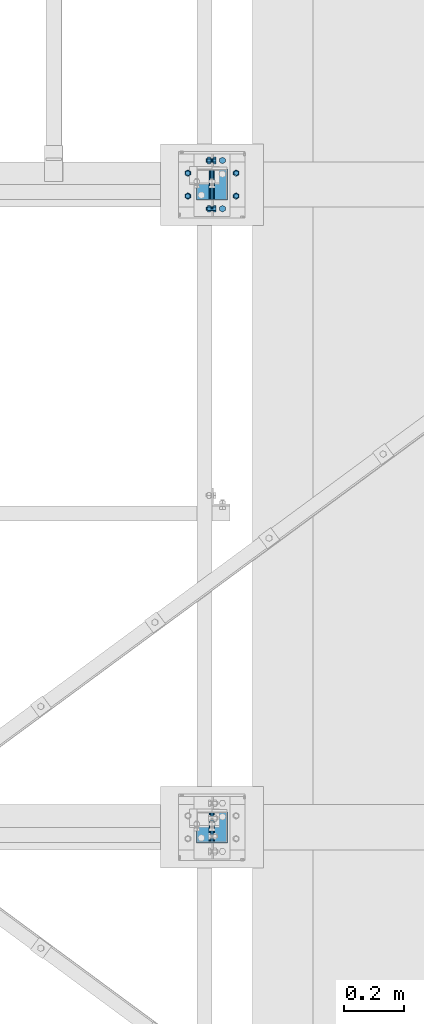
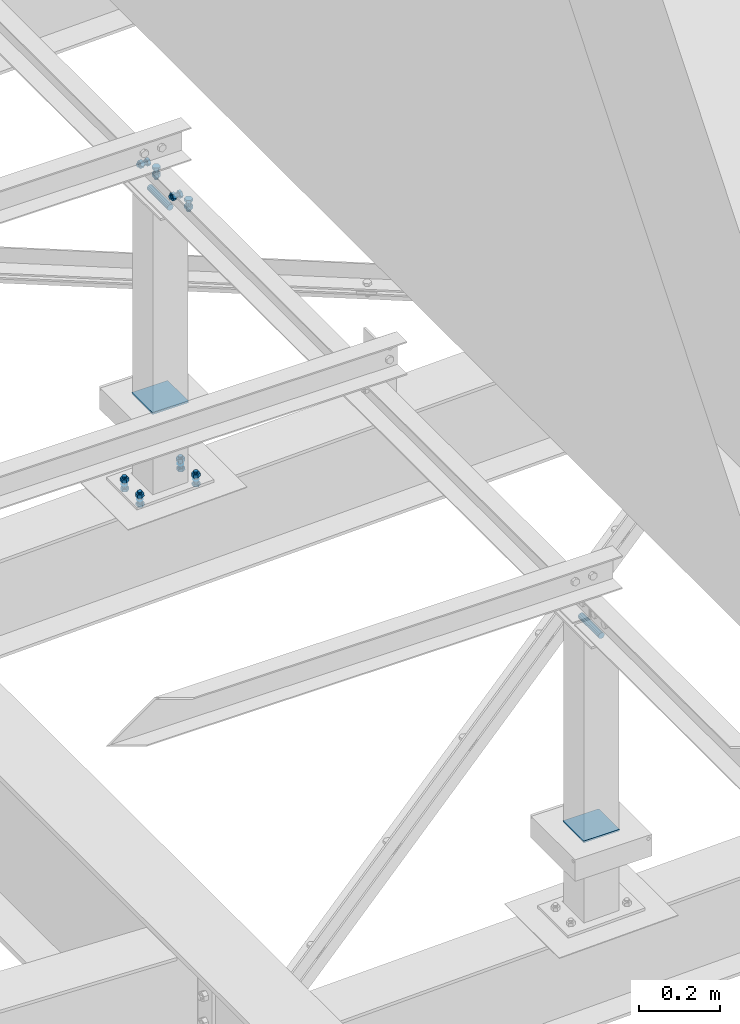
# One storey, part 55 of 3134: 8 mechanical fasteners, 5 elements without a shape of their own.
"""IFC2X3 building model written with IfcOpenShell, lengths in millimetres."""

from ifc_helpers import new_model, si_unit, frame, origin_with_axes, place, context, subcontext, project, spatial, faceted_brep, source, transform, mapped, material, type_object, element, aggregate, save


model = new_model("IFC2X3")

# Units and contexts
model_context = context("Model", 3, precision=1e-05, world=origin_with_axes())
body_context = subcontext(model_context, "Body", "Model", "MODEL_VIEW")
ifc_project = project(units=[si_unit("LENGTHUNIT", "METRE", prefix="MILLI"), si_unit("AREAUNIT", "SQUARE_METRE"), si_unit("VOLUMEUNIT", "CUBIC_METRE"), si_unit("MASSUNIT", "GRAM", prefix="KILO"), si_unit("TIMEUNIT", "SECOND"), si_unit("PLANEANGLEUNIT", "RADIAN"), si_unit("SOLIDANGLEUNIT", "STERADIAN"), si_unit("THERMODYNAMICTEMPERATUREUNIT", "DEGREE_CELSIUS"), si_unit("LUMINOUSINTENSITYUNIT", "LUMEN")], contexts=[model_context])

# Site, building, storey
site_placement = place(None, origin_with_axes())
site = spatial("IfcSite", under=ifc_project, at=site_placement, CompositionType="ELEMENT")
building_placement = place(site_placement, origin_with_axes())
building = spatial("IfcBuilding", under=site, at=building_placement, Name="Undefined", CompositionType="ELEMENT")
storey_placement = place(building_placement, origin_with_axes())
storey = spatial("IfcBuildingStorey", under=building, at=storey_placement, Name="Undefined", CompositionType="ELEMENT", Elevation=0.0)

# Assembly, mechanical fastener
assembly_1_placement = place(storey_placement, origin_with_axes())
assembly_1 = element("IfcElementAssembly", 1, at=assembly_1_placement, inside=storey, AssemblyPlace="NOTDEFINED", PredefinedType="RIGID_FRAME")
ifc_material_1 = material(Name="8.8")
mechanical_fastener_type = type_object("IfcMechanicalFastenerType", Name="Bolt assembly")
shared_shape_1 = source(origin_with_axes(), body_context, "Body", "Brep", [
    faceted_brep([(10.9696551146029, -14.0, 0.0), (5.48482755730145, -14.0, 9.5), (-5.48482755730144, -14.0, 9.5), (-10.9696551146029, -14.0, 1.34339530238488e-15), (-5.48482755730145, -14.0, -9.5), (5.48482755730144, -14.0, -9.50000000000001), (5.48482755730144, -6.0, -9.50000000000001), (-5.48482755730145, -6.0, -9.5), (-10.9696551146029, -6.0, 1.34339530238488e-15), (-5.48482755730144, -6.0, 9.5), (5.48482755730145, -6.0, 9.5), (10.9696551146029, -6.0, 0.0), (6.0, -6.0, 0.0), (5.19615242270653, -6.0, 3.00000000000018), (2.99999999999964, -6.0, 5.19615242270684), (-6.21801588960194e-13, -6.0, 6.0), (-3.00000000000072, -6.0, 5.19615242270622), (-5.19615242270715, -6.0, 2.9999999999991), (-6.0, -6.0, -1.24360317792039e-12), (-5.19615242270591, -6.0, -3.00000000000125), (-2.99999999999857, -6.0, -5.19615242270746), (1.85874342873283e-12, -6.0, -6.0), (3.00000000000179, -6.0, -5.1961524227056), (5.19615242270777, -6.0, -2.99999999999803), (5.19615242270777, 24.0, -2.99999999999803), (3.00000000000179, 24.0, -5.1961524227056), (1.85874342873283e-12, 24.0, -6.0), (-2.99999999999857, 24.0, -5.19615242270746), (-5.19615242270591, 24.0, -3.00000000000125), (-6.0, 24.0, -1.24360317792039e-12), (-5.19615242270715, 24.0, 2.9999999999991), (-3.00000000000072, 24.0, 5.19615242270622), (-6.21801588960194e-13, 24.0, 6.0), (2.99999999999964, 24.0, 5.19615242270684), (5.19615242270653, 24.0, 3.00000000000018), (6.0, 24.0, 0.0), (10.9696551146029, 6.00000000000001, 0.0), (5.48482755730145, 6.00000000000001, 9.5), (-5.48482755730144, 6.00000000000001, 9.5), (-10.9696551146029, 6.00000000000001, 1.34339530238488e-15), (-5.48482755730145, 6.00000000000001, -9.5), (5.48482755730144, 6.00000000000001, -9.50000000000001), (5.48482755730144, 16.0, -9.50000000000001), (-5.48482755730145, 16.0, -9.5), (-10.9696551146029, 16.0, 1.34339530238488e-15), (-5.48482755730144, 16.0, 9.5), (5.48482755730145, 16.0, 9.5), (10.9696551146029, 16.0, 0.0)], [[[0, 1, 2, 3, 4, 5]], [[6, 7, 8, 9, 10, 11]], [[0, 11, 10, 1]], [[1, 10, 9, 2]], [[2, 9, 8, 3]], [[3, 8, 7, 4]], [[4, 7, 6, 5]], [[5, 6, 11, 0]], [[12, 13, 14, 15, 16, 17, 18, 19, 20, 21, 22, 23]], [[24, 25, 26, 27, 28, 29, 30, 31, 32, 33, 34, 35]], [[12, 35, 34, 13]], [[13, 34, 33, 14]], [[14, 33, 32, 15]], [[15, 32, 31, 16]], [[16, 31, 30, 17]], [[17, 30, 29, 18]], [[18, 29, 28, 19]], [[19, 28, 27, 20]], [[20, 27, 26, 21]], [[21, 26, 25, 22]], [[22, 25, 24, 23]], [[23, 24, 35, 12]], [[36, 37, 38, 39, 40, 41]], [[42, 43, 44, 45, 46, 47]], [[36, 47, 46, 37]], [[37, 46, 45, 38]], [[38, 45, 44, 39]], [[39, 44, 43, 40]], [[40, 43, 42, 41]], [[41, 42, 47, 36]]]),
    faceted_brep([(7.0, -5.9, 0.0), (6.06217782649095, -5.9, 3.50000000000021), (3.49999999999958, -5.9, 6.06217782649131), (-7.25435187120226e-13, -5.9, 7.0), (-3.50000000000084, -5.9, 6.06217782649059), (-6.06217782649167, -5.9, 3.49999999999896), (-7.0, -5.9, -1.45087037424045e-12), (-6.06217782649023, -5.9, -3.50000000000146), (-3.49999999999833, -5.9, -6.06217782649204), (2.1685340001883e-12, -5.9, -7.0), (3.50000000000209, -5.9, -6.06217782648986), (6.0621778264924, -5.9, -3.4999999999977), (6.0621778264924, 0.0999999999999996, -3.4999999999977), (3.50000000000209, 0.0999999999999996, -6.06217782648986), (2.1685340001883e-12, 0.0999999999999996, -7.0), (-3.49999999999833, 0.0999999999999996, -6.06217782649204), (-6.06217782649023, 0.0999999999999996, -3.50000000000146), (-7.0, 0.0999999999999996, -1.45087037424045e-12), (-6.06217782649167, 0.0999999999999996, 3.49999999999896), (-3.50000000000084, 0.0999999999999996, 6.06217782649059), (-7.25435187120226e-13, 0.0999999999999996, 7.0), (3.49999999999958, 0.0999999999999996, 6.06217782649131), (6.06217782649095, 0.0999999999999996, 3.50000000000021), (7.0, 0.0999999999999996, 0.0), (7.0, -0.1, 0.0), (6.06217782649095, -0.1, 3.50000000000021), (3.49999999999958, -0.1, 6.06217782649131), (-7.25435187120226e-13, -0.1, 7.0), (-3.50000000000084, -0.1, 6.06217782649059), (-6.06217782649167, -0.1, 3.49999999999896), (-7.0, -0.1, -1.45087037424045e-12), (-6.06217782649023, -0.1, -3.50000000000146), (-3.49999999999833, -0.1, -6.06217782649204), (2.1685340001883e-12, -0.1, -7.0), (3.50000000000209, -0.1, -6.06217782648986), (6.0621778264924, -0.1, -3.4999999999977), (6.0621778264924, 6.00000000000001, -3.4999999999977), (3.50000000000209, 6.00000000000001, -6.06217782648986), (2.1685340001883e-12, 6.00000000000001, -7.0), (-3.49999999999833, 6.00000000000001, -6.06217782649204), (-6.06217782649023, 6.00000000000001, -3.50000000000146), (-7.0, 6.00000000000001, -1.45087037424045e-12), (-6.06217782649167, 6.00000000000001, 3.49999999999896), (-3.50000000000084, 6.00000000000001, 6.06217782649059), (-7.25435187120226e-13, 6.00000000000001, 7.0), (3.49999999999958, 6.00000000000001, 6.06217782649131), (6.06217782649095, 6.00000000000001, 3.50000000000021), (7.0, 6.00000000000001, 0.0)], [[[0, 1, 2, 3, 4, 5, 6, 7, 8, 9, 10, 11]], [[12, 13, 14, 15, 16, 17, 18, 19, 20, 21, 22, 23]], [[0, 23, 22, 1]], [[1, 22, 21, 2]], [[2, 21, 20, 3]], [[3, 20, 19, 4]], [[4, 19, 18, 5]], [[5, 18, 17, 6]], [[6, 17, 16, 7]], [[7, 16, 15, 8]], [[8, 15, 14, 9]], [[9, 14, 13, 10]], [[10, 13, 12, 11]], [[11, 12, 23, 0]], [[24, 25, 26, 27, 28, 29, 30, 31, 32, 33, 34, 35]], [[36, 37, 38, 39, 40, 41, 42, 43, 44, 45, 46, 47]], [[24, 47, 46, 25]], [[25, 46, 45, 26]], [[26, 45, 44, 27]], [[27, 44, 43, 28]], [[28, 43, 42, 29]], [[29, 42, 41, 30]], [[30, 41, 40, 31]], [[31, 40, 39, 32]], [[32, 39, 38, 33]], [[33, 38, 37, 34]], [[34, 37, 36, 35]], [[35, 36, 47, 24]]]),
])
mechanical_fastener_1_placement = place(assembly_1_placement, frame((10440.0, 17240.0, 4265.0), z_axis=(-1.0, 0.0, 0.0), x_axis=(0.0, 1.0, 0.0)))
mechanical_fastener_1 = element("IfcMechanicalFastener", 2, at=mechanical_fastener_1_placement, type_object=mechanical_fastener_type, material=ifc_material_1, Name="Bolt assembly", NominalDiameter=12.0, NominalLength=30.0, context=body_context, shape_type="MappedRepresentation", body=[
    mapped(shared_shape_1, transform((0.0, 0.0, 0.0))),
    mapped(shared_shape_1, transform((160.0, 0.0, 0.0))),
])

assembly_2_placement = place(storey_placement, origin_with_axes())
assembly_2 = element("IfcElementAssembly", 3, at=assembly_2_placement, inside=storey, AssemblyPlace="NOTDEFINED", PredefinedType="RIGID_FRAME")
shared_shape_2 = source(origin_with_axes(), body_context, "Body", "Brep", [
    faceted_brep([(10.9696551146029, -14.0, 0.0), (5.48482755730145, -14.0, 9.5), (-5.48482755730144, -14.0, 9.5), (-10.9696551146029, -14.0, 1.34339530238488e-15), (-5.48482755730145, -14.0, -9.5), (5.48482755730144, -14.0, -9.50000000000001), (5.48482755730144, -6.0, -9.50000000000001), (-5.48482755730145, -6.0, -9.5), (-10.9696551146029, -6.0, 1.34339530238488e-15), (-5.48482755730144, -6.0, 9.5), (5.48482755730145, -6.0, 9.5), (10.9696551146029, -6.0, 0.0), (6.0, -6.0, 0.0), (5.19615242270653, -6.0, 3.00000000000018), (2.99999999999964, -6.0, 5.19615242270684), (-6.21801588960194e-13, -6.0, 6.0), (-3.00000000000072, -6.0, 5.19615242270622), (-5.19615242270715, -6.0, 2.9999999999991), (-6.0, -6.0, -1.24360317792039e-12), (-5.19615242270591, -6.0, -3.00000000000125), (-2.99999999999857, -6.0, -5.19615242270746), (1.85874342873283e-12, -6.0, -6.0), (3.00000000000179, -6.0, -5.1961524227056), (5.19615242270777, -6.0, -2.99999999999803), (5.19615242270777, 19.0, -2.99999999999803), (3.00000000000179, 19.0, -5.1961524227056), (1.85874342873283e-12, 19.0, -6.0), (-2.99999999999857, 19.0, -5.19615242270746), (-5.19615242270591, 19.0, -3.00000000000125), (-6.0, 19.0, -1.24360317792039e-12), (-5.19615242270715, 19.0, 2.9999999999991), (-3.00000000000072, 19.0, 5.19615242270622), (-6.21801588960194e-13, 19.0, 6.0), (2.99999999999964, 19.0, 5.19615242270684), (5.19615242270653, 19.0, 3.00000000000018), (6.0, 19.0, 0.0), (10.9696551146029, 4.00000000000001, 0.0), (5.48482755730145, 4.00000000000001, 9.5), (-5.48482755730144, 4.00000000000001, 9.5), (-10.9696551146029, 4.00000000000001, 1.34339530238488e-15), (-5.48482755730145, 4.00000000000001, -9.5), (5.48482755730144, 4.00000000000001, -9.50000000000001), (5.48482755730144, 14.0, -9.50000000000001), (-5.48482755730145, 14.0, -9.5), (-10.9696551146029, 14.0, 1.34339530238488e-15), (-5.48482755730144, 14.0, 9.5), (5.48482755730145, 14.0, 9.5), (10.9696551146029, 14.0, 0.0)], [[[0, 1, 2, 3, 4, 5]], [[6, 7, 8, 9, 10, 11]], [[0, 11, 10, 1]], [[1, 10, 9, 2]], [[2, 9, 8, 3]], [[3, 8, 7, 4]], [[4, 7, 6, 5]], [[5, 6, 11, 0]], [[12, 13, 14, 15, 16, 17, 18, 19, 20, 21, 22, 23]], [[24, 25, 26, 27, 28, 29, 30, 31, 32, 33, 34, 35]], [[12, 35, 34, 13]], [[13, 34, 33, 14]], [[14, 33, 32, 15]], [[15, 32, 31, 16]], [[16, 31, 30, 17]], [[17, 30, 29, 18]], [[18, 29, 28, 19]], [[19, 28, 27, 20]], [[20, 27, 26, 21]], [[21, 26, 25, 22]], [[22, 25, 24, 23]], [[23, 24, 35, 12]], [[36, 37, 38, 39, 40, 41]], [[42, 43, 44, 45, 46, 47]], [[36, 47, 46, 37]], [[37, 46, 45, 38]], [[38, 45, 44, 39]], [[39, 44, 43, 40]], [[40, 43, 42, 41]], [[41, 42, 47, 36]]]),
    faceted_brep([(7.0, -0.1, 0.0), (6.06217782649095, -0.1, 3.50000000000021), (3.49999999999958, -0.1, 6.06217782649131), (-7.25435187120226e-13, -0.1, 7.0), (-3.50000000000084, -0.1, 6.06217782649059), (-6.06217782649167, -0.1, 3.49999999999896), (-7.0, -0.1, -1.45087037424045e-12), (-6.06217782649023, -0.1, -3.50000000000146), (-3.49999999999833, -0.1, -6.06217782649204), (2.1685340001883e-12, -0.1, -7.0), (3.50000000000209, -0.1, -6.06217782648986), (6.0621778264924, -0.1, -3.4999999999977), (6.0621778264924, 4.00000000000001, -3.4999999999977), (3.50000000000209, 4.00000000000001, -6.06217782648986), (2.1685340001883e-12, 4.00000000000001, -7.0), (-3.49999999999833, 4.00000000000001, -6.06217782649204), (-6.06217782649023, 4.00000000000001, -3.50000000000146), (-7.0, 4.00000000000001, -1.45087037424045e-12), (-6.06217782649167, 4.00000000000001, 3.49999999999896), (-3.50000000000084, 4.00000000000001, 6.06217782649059), (-7.25435187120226e-13, 4.00000000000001, 7.0), (3.49999999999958, 4.00000000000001, 6.06217782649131), (6.06217782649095, 4.00000000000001, 3.50000000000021), (7.0, 4.00000000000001, 0.0), (7.0, -5.9, 0.0), (6.06217782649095, -5.9, 3.50000000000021), (3.49999999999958, -5.9, 6.06217782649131), (-7.25435187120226e-13, -5.9, 7.0), (-3.50000000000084, -5.9, 6.06217782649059), (-6.06217782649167, -5.9, 3.49999999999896), (-7.0, -5.9, -1.45087037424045e-12), (-6.06217782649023, -5.9, -3.50000000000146), (-3.49999999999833, -5.9, -6.06217782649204), (2.1685340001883e-12, -5.9, -7.0), (3.50000000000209, -5.9, -6.06217782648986), (6.0621778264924, -5.9, -3.4999999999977), (6.0621778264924, 0.0999999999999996, -3.4999999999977), (3.50000000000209, 0.0999999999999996, -6.06217782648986), (2.1685340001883e-12, 0.0999999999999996, -7.0), (-3.49999999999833, 0.0999999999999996, -6.06217782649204), (-6.06217782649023, 0.0999999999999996, -3.50000000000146), (-7.0, 0.0999999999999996, -1.45087037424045e-12), (-6.06217782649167, 0.0999999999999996, 3.49999999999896), (-3.50000000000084, 0.0999999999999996, 6.06217782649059), (-7.25435187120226e-13, 0.0999999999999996, 7.0), (3.49999999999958, 0.0999999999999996, 6.06217782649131), (6.06217782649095, 0.0999999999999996, 3.50000000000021), (7.0, 0.0999999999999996, 0.0)], [[[0, 1, 2, 3, 4, 5, 6, 7, 8, 9, 10, 11]], [[12, 13, 14, 15, 16, 17, 18, 19, 20, 21, 22, 23]], [[0, 23, 22, 1]], [[1, 22, 21, 2]], [[2, 21, 20, 3]], [[3, 20, 19, 4]], [[4, 19, 18, 5]], [[5, 18, 17, 6]], [[6, 17, 16, 7]], [[7, 16, 15, 8]], [[8, 15, 14, 9]], [[9, 14, 13, 10]], [[10, 13, 12, 11]], [[11, 12, 23, 0]], [[24, 25, 26, 27, 28, 29, 30, 31, 32, 33, 34, 35]], [[36, 37, 38, 39, 40, 41, 42, 43, 44, 45, 46, 47]], [[24, 47, 46, 25]], [[25, 46, 45, 26]], [[26, 45, 44, 27]], [[27, 44, 43, 28]], [[28, 43, 42, 29]], [[29, 42, 41, 30]], [[30, 41, 40, 31]], [[31, 40, 39, 32]], [[32, 39, 38, 33]], [[33, 38, 37, 34]], [[34, 37, 36, 35]], [[35, 36, 47, 24]]]),
])
mechanical_fastener_2_placement = place(assembly_2_placement, frame((10405.0, 17240.0, 4300.0), z_axis=(0.0, 0.0, 1.0), x_axis=(0.0, 1.0, 0.0)))
mechanical_fastener_2 = element("IfcMechanicalFastener", 4, at=mechanical_fastener_2_placement, type_object=mechanical_fastener_type, material=ifc_material_1, Name="Bolt assembly", NominalDiameter=12.0, NominalLength=25.0, context=body_context, shape_type="MappedRepresentation", body=[
    mapped(shared_shape_2, transform((0.0, 0.0, 0.0))),
    mapped(shared_shape_2, transform((160.0, 0.0, 0.0))),
])
aggregate(assembly_2, [mechanical_fastener_2])

assembly_3_placement = place(storey_placement, origin_with_axes())
assembly_3 = element("IfcElementAssembly", 5, at=assembly_3_placement, inside=storey, Name="300", AssemblyPlace="NOTDEFINED", PredefinedType="RIGID_FRAME")
shared_shape_3 = source(origin_with_axes(), body_context, "Body", "Brep", [
    faceted_brep([(10.9696551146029, -4.1984682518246, 0.0), (5.48482755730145, -4.1984682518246, 9.5), (-5.48482755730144, -4.1984682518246, 9.5), (-10.9696551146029, -4.1984682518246, 1.34339530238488e-15), (-5.48482755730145, -4.1984682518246, -9.5), (5.48482755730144, -4.1984682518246, -9.50000000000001), (5.48482755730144, 3.8015317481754, -9.50000000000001), (-5.48482755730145, 3.8015317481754, -9.5), (-10.9696551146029, 3.8015317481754, 1.34339530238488e-15), (-5.48482755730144, 3.8015317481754, 9.5), (5.48482755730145, 3.8015317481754, 9.5), (10.9696551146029, 3.8015317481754, 0.0), (6.0, 3.8015317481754, 0.0), (5.19615242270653, 3.8015317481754, 3.00000000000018), (2.99999999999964, 3.8015317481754, 5.19615242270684), (-6.21801588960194e-13, 3.8015317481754, 6.0), (-3.00000000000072, 3.8015317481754, 5.19615242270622), (-5.19615242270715, 3.8015317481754, 2.9999999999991), (-6.0, 3.8015317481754, -1.24360317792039e-12), (-5.19615242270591, 3.8015317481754, -3.00000000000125), (-2.99999999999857, 3.8015317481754, -5.19615242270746), (1.85874342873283e-12, 3.8015317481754, -6.0), (3.00000000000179, 3.8015317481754, -5.1961524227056), (5.19615242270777, 3.8015317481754, -2.99999999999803), (5.19615242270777, 38.8015317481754, -2.99999999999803), (3.00000000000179, 38.8015317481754, -5.1961524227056), (1.85874342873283e-12, 38.8015317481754, -6.0), (-2.99999999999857, 38.8015317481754, -5.19615242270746), (-5.19615242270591, 38.8015317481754, -3.00000000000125), (-6.0, 38.8015317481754, -1.24360317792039e-12), (-5.19615242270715, 38.8015317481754, 2.9999999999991), (-3.00000000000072, 38.8015317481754, 5.19615242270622), (-6.21801588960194e-13, 38.8015317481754, 6.0), (2.99999999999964, 38.8015317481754, 5.19615242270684), (5.19615242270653, 38.8015317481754, 3.00000000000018), (6.0, 38.8015317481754, 0.0), (10.9696551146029, 23.0039050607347, 0.0), (5.48482755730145, 23.0039050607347, 9.5), (-5.48482755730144, 23.0039050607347, 9.5), (-10.9696551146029, 23.0039050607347, 1.34339530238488e-15), (-5.48482755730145, 23.0039050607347, -9.5), (5.48482755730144, 23.0039050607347, -9.50000000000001), (5.48482755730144, 33.0039050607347, -9.50000000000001), (-5.48482755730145, 33.0039050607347, -9.5), (-10.9696551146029, 33.0039050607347, 1.34339530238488e-15), (-5.48482755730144, 33.0039050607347, 9.5), (5.48482755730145, 33.0039050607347, 9.5), (10.9696551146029, 33.0039050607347, 0.0)], [[[0, 1, 2, 3, 4, 5]], [[6, 7, 8, 9, 10, 11]], [[0, 11, 10, 1]], [[1, 10, 9, 2]], [[2, 9, 8, 3]], [[3, 8, 7, 4]], [[4, 7, 6, 5]], [[5, 6, 11, 0]], [[12, 13, 14, 15, 16, 17, 18, 19, 20, 21, 22, 23]], [[24, 25, 26, 27, 28, 29, 30, 31, 32, 33, 34, 35]], [[12, 35, 34, 13]], [[13, 34, 33, 14]], [[14, 33, 32, 15]], [[15, 32, 31, 16]], [[16, 31, 30, 17]], [[17, 30, 29, 18]], [[18, 29, 28, 19]], [[19, 28, 27, 20]], [[20, 27, 26, 21]], [[21, 26, 25, 22]], [[22, 25, 24, 23]], [[23, 24, 35, 12]], [[36, 37, 38, 39, 40, 41]], [[42, 43, 44, 45, 46, 47]], [[36, 47, 46, 37]], [[37, 46, 45, 38]], [[38, 45, 44, 39]], [[39, 44, 43, 40]], [[40, 43, 42, 41]], [[41, 42, 47, 36]]]),
    faceted_brep([(7.0, 14.9039050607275, 0.0), (6.06217782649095, 14.9039050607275, 3.50000000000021), (3.49999999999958, 14.9039050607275, 6.06217782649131), (-7.25435187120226e-13, 14.9039050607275, 7.0), (-3.50000000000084, 14.9039050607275, 6.06217782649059), (-6.06217782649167, 14.9039050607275, 3.49999999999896), (-7.0, 14.9039050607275, -1.45087037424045e-12), (-6.06217782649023, 14.9039050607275, -3.50000000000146), (-3.49999999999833, 14.9039050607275, -6.06217782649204), (2.1685340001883e-12, 14.9039050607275, -7.0), (3.50000000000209, 14.9039050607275, -6.06217782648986), (6.0621778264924, 14.9039050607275, -3.4999999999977), (6.0621778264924, 23.0039050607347, -3.4999999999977), (3.50000000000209, 23.0039050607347, -6.06217782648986), (2.1685340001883e-12, 23.0039050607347, -7.0), (-3.49999999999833, 23.0039050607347, -6.06217782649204), (-6.06217782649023, 23.0039050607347, -3.50000000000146), (-7.0, 23.0039050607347, -1.45087037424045e-12), (-6.06217782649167, 23.0039050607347, 3.49999999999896), (-3.50000000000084, 23.0039050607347, 6.06217782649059), (-7.25435187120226e-13, 23.0039050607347, 7.0), (3.49999999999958, 23.0039050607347, 6.06217782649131), (6.06217782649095, 23.0039050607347, 3.50000000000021), (7.0, 23.0039050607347, 0.0), (7.0, 3.9015317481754, 0.0), (6.06217782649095, 3.9015317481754, 3.50000000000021), (3.49999999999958, 3.9015317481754, 6.06217782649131), (-7.25435187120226e-13, 3.9015317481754, 7.0), (-3.50000000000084, 3.9015317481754, 6.06217782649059), (-6.06217782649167, 3.9015317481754, 3.49999999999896), (-7.0, 3.9015317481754, -1.45087037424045e-12), (-6.06217782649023, 3.9015317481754, -3.50000000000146), (-3.49999999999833, 3.9015317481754, -6.06217782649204), (2.1685340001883e-12, 3.9015317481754, -7.0), (3.50000000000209, 3.9015317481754, -6.06217782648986), (6.0621778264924, 3.9015317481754, -3.4999999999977), (6.0621778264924, 13.1015315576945, -3.4999999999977), (3.50000000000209, 13.1015315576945, -6.06217782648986), (2.1685340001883e-12, 13.1015315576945, -7.0), (-3.49999999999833, 13.1015315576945, -6.06217782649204), (-6.06217782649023, 13.1015315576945, -3.50000000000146), (-7.0, 13.1015315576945, -1.45087037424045e-12), (-6.06217782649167, 13.1015315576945, 3.49999999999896), (-3.50000000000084, 13.1015315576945, 6.06217782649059), (-7.25435187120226e-13, 13.1015315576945, 7.0), (3.49999999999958, 13.1015315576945, 6.06217782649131), (6.06217782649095, 13.1015315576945, 3.50000000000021), (7.0, 13.1015315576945, 0.0)], [[[0, 1, 2, 3, 4, 5, 6, 7, 8, 9, 10, 11]], [[12, 13, 14, 15, 16, 17, 18, 19, 20, 21, 22, 23]], [[0, 23, 22, 1]], [[1, 22, 21, 2]], [[2, 21, 20, 3]], [[3, 20, 19, 4]], [[4, 19, 18, 5]], [[5, 18, 17, 6]], [[6, 17, 16, 7]], [[7, 16, 15, 8]], [[8, 15, 14, 9]], [[9, 14, 13, 10]], [[10, 13, 12, 11]], [[11, 12, 23, 0]], [[24, 25, 26, 27, 28, 29, 30, 31, 32, 33, 34, 35]], [[36, 37, 38, 39, 40, 41, 42, 43, 44, 45, 46, 47]], [[24, 47, 46, 25]], [[25, 46, 45, 26]], [[26, 45, 44, 27]], [[27, 44, 43, 28]], [[28, 43, 42, 29]], [[29, 42, 41, 30]], [[30, 41, 40, 31]], [[31, 40, 39, 32]], [[32, 39, 38, 33]], [[33, 38, 37, 34]], [[34, 37, 36, 35]], [[35, 36, 47, 24]]]),
])
mechanical_fastener_3_placement = place(assembly_3_placement, frame((10405.7748812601, 17282.0, 3374.2272055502), z_axis=(0.999519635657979, 0.0, 0.0309919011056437), x_axis=(0.0, 1.0, 0.0)))
mechanical_fastener_3 = element("IfcMechanicalFastener", 6, at=mechanical_fastener_3_placement, type_object=mechanical_fastener_type, material=ifc_material_1, Name="Bolt assembly", NominalDiameter=12.0, NominalLength=35.0, context=body_context, shape_type="MappedRepresentation", body=[
    mapped(shared_shape_3, transform((0.0, -5.32963895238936e-10, -79.9999999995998))),
    mapped(shared_shape_3, transform((76.0, -5.32963895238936e-10, -79.9999999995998))),
    mapped(shared_shape_3, transform((0.0, 5.3114490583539e-10, 79.9999999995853))),
    mapped(shared_shape_3, transform((76.0, 5.3114490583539e-10, 79.9999999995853))),
])
aggregate(assembly_3, [mechanical_fastener_3])

assembly_4_placement = place(storey_placement, origin_with_axes())
assembly_4 = element("IfcElementAssembly", 7, at=assembly_4_placement, inside=storey, AssemblyPlace="NOTDEFINED", PredefinedType="RIGID_FRAME")
shared_shape_4 = source(origin_with_axes(), body_context, "Body", "Brep", [
    faceted_brep([(7.0, 13.0000253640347, 0.0), (6.06217782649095, 13.0000253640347, 3.50000000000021), (3.49999999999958, 13.0000253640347, 6.06217782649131), (-7.25435187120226e-13, 13.0000253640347, 7.0), (-3.50000000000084, 13.0000253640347, 6.06217782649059), (-6.06217782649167, 13.0000253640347, 3.49999999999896), (-7.0, 13.0000253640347, -1.45087037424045e-12), (-6.06217782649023, 13.0000253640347, -3.50000000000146), (-3.49999999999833, 13.0000253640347, -6.06217782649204), (2.1685340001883e-12, 13.0000253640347, -7.0), (3.50000000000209, 13.0000253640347, -6.06217782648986), (6.0621778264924, 13.0000253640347, -3.4999999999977), (6.0621778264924, 15.0999999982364, -3.4999999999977), (3.50000000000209, 15.0999999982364, -6.06217782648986), (2.1685340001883e-12, 15.0999999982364, -7.0), (-3.49999999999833, 15.0999999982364, -6.06217782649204), (-6.06217782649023, 15.0999999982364, -3.50000000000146), (-7.0, 15.0999999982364, -1.45087037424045e-12), (-6.06217782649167, 15.0999999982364, 3.49999999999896), (-3.50000000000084, 15.0999999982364, 6.06217782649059), (-7.25435187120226e-13, 15.0999999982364, 7.0), (3.49999999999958, 15.0999999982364, 6.06217782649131), (6.06217782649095, 15.0999999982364, 3.50000000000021), (7.0, 15.0999999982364, 0.0)], [[[0, 1, 2, 3, 4, 5, 6, 7, 8, 9, 10, 11]], [[12, 13, 14, 15, 16, 17, 18, 19, 20, 21, 22, 23]], [[0, 23, 22, 1]], [[1, 22, 21, 2]], [[2, 21, 20, 3]], [[3, 20, 19, 4]], [[4, 19, 18, 5]], [[5, 18, 17, 6]], [[6, 17, 16, 7]], [[7, 16, 15, 8]], [[8, 15, 14, 9]], [[9, 14, 13, 10]], [[10, 13, 12, 11]], [[11, 12, 23, 0]]]),
])
mechanical_fastener_4_placement = place(assembly_4_placement, frame((10405.7748812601, 17282.0, 3374.2272055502), z_axis=(0.999519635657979, 0.0, 0.0309919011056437), x_axis=(0.0, 1.0, 0.0)))
mechanical_fastener_4 = element("IfcMechanicalFastener", 8, at=mechanical_fastener_4_placement, type_object=mechanical_fastener_type, material=ifc_material_1, Name="Bolt assembly", NominalDiameter=12.0, NominalLength=2.0, context=body_context, shape_type="MappedRepresentation", body=[
    mapped(shared_shape_4, transform((0.0, -5.32963895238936e-10, -79.9999999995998))),
    mapped(shared_shape_4, transform((76.0, -5.32963895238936e-10, -79.9999999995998))),
    mapped(shared_shape_4, transform((0.0, 5.3114490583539e-10, 79.9999999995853))),
    mapped(shared_shape_4, transform((76.0, 5.3114490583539e-10, 79.9999999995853))),
])
aggregate(assembly_4, [mechanical_fastener_4])

# Mechanical fastener
shared_shape_5 = source(origin_with_axes(), body_context, "Body", "Brep", [
    faceted_brep([(9.0, -50.0, 0.0), (7.79422863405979, -50.0, 4.50000000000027), (4.49999999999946, -50.0, 7.79422863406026), (-9.3270238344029e-13, -50.0, 9.0), (-4.50000000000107, -50.0, 7.79422863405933), (-7.79422863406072, -50.0, 4.49999999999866), (-9.0, -50.0, -1.86540476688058e-12), (-7.79422863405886, -50.0, -4.50000000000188), (-4.49999999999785, -50.0, -7.79422863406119), (2.78811514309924e-12, -50.0, -9.0), (4.50000000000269, -50.0, -7.7942286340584), (7.79422863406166, -50.0, -4.49999999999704), (7.79422863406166, 50.1, -4.49999999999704), (4.50000000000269, 50.1, -7.7942286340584), (2.78811514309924e-12, 50.1, -9.0), (-4.49999999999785, 50.1, -7.79422863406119), (-7.79422863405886, 50.1, -4.50000000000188), (-9.0, 50.1, -1.86540476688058e-12), (-7.79422863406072, 50.1, 4.49999999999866), (-4.50000000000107, 50.1, 7.79422863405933), (-9.3270238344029e-13, 50.1, 9.0), (4.49999999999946, 50.1, 7.79422863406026), (7.79422863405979, 50.1, 4.50000000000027), (9.0, 50.1, 0.0)], [[[0, 1, 2, 3, 4, 5, 6, 7, 8, 9, 10, 11]], [[12, 13, 14, 15, 16, 17, 18, 19, 20, 21, 22, 23]], [[0, 23, 22, 1]], [[1, 22, 21, 2]], [[2, 21, 20, 3]], [[3, 20, 19, 4]], [[4, 19, 18, 5]], [[5, 18, 17, 6]], [[6, 17, 16, 7]], [[7, 16, 15, 8]], [[8, 15, 14, 9]], [[9, 14, 13, 10]], [[10, 13, 12, 11]], [[11, 12, 23, 0]]]),
])
mechanical_fastener_5_placement = place(assembly_1_placement, frame((10405.0, 17320.0, 4245.0), z_axis=(-1.0, 0.0, 0.0), x_axis=(0.0, 0.0, 1.0)))
mechanical_fastener_5 = element("IfcMechanicalFastener", 9, at=mechanical_fastener_5_placement, type_object=mechanical_fastener_type, material=ifc_material_1, Name="Bolt assembly", NominalDiameter=16.0, NominalLength=100.0, context=body_context, shape_type="MappedRepresentation", body=[
    mapped(shared_shape_5, transform((0.0, 0.0, 0.0))),
])

# Assembly, mechanical fastener
assembly_5_placement = place(storey_placement, origin_with_axes())
assembly_5 = element("IfcElementAssembly", 10, at=assembly_5_placement, inside=storey, AssemblyPlace="NOTDEFINED", PredefinedType="RIGID_FRAME")
mechanical_fastener_6_placement = place(assembly_5_placement, frame((10405.0, 15190.0, 4245.0), z_axis=(-1.0, 0.0, 0.0), x_axis=(0.0, 0.0, 1.0)))
mechanical_fastener_6 = element("IfcMechanicalFastener", 11, at=mechanical_fastener_6_placement, type_object=mechanical_fastener_type, material=ifc_material_1, Name="Bolt assembly", NominalDiameter=16.0, NominalLength=100.0, context=body_context, shape_type="MappedRepresentation", body=[
    mapped(shared_shape_5, transform((0.0, 0.0, 0.0))),
])

# Mechanical fastener
ifc_material_2 = material(Name="6.8")
shared_shape_6 = source(origin_with_axes(), body_context, "Body", "Brep", [
    faceted_brep([(51.5, 1.36424205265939e-12, 50.0), (51.3858192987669, 1.36424205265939e-12, 50.5740251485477), (51.0606601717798, 1.36424205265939e-12, 51.0606601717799), (50.5740251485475, 1.36424205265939e-12, 51.385819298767), (-50.0000000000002, 1.36424205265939e-12, 51.5), (-50.7500000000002, 1.36424205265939e-12, 51.2990381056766), (-51.2990381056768, 1.36424205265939e-12, 50.7499999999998), (-51.5, 1.36424205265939e-12, 49.9999999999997), (-51.5, 1.36424205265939e-12, -50.0000000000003), (-51.2990381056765, 1.36424205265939e-12, -50.7500000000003), (-50.7499999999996, 1.36424205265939e-12, -51.2990381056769), (-49.9999999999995, 1.36424205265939e-12, -51.5), (50.0000000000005, 1.36424205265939e-12, -51.5), (50.7500000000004, 1.36424205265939e-12, -51.2990381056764), (51.2990381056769, 1.36424205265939e-12, -50.7499999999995), (51.5, 1.36424205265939e-12, -49.9999999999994), (51.5, 5.10000000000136, -49.9999999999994), (51.2990381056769, 5.10000000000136, -50.7499999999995), (50.7500000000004, 5.10000000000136, -51.2990381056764), (50.0000000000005, 5.10000000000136, -51.5), (-49.9999999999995, 5.10000000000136, -51.5), (-50.7499999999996, 5.10000000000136, -51.2990381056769), (-51.2990381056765, 5.10000000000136, -50.7500000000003), (-51.5, 5.10000000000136, -50.0000000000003), (-51.5, 5.10000000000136, 49.9999999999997), (-51.2990381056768, 5.10000000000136, 50.7499999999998), (-50.7500000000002, 5.10000000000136, 51.2990381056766), (-50.0000000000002, 5.10000000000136, 51.5), (50.5740251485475, 5.10000000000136, 51.385819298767), (51.0606601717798, 5.10000000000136, 51.0606601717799), (51.3858192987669, 5.10000000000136, 50.5740251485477), (51.5, 5.10000000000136, 50.0)], [[[0, 1, 2, 3, 4, 5, 6, 7, 8, 9, 10, 11, 12, 13, 14, 15]], [[16, 17, 18, 19, 20, 21, 22, 23, 24, 25, 26, 27, 28, 29, 30, 31]], [[0, 31, 30, 1]], [[1, 30, 29, 2]], [[2, 29, 28, 3]], [[3, 28, 27, 4]], [[4, 27, 26, 5]], [[5, 26, 25, 6]], [[6, 25, 24, 7]], [[7, 24, 23, 8]], [[8, 23, 22, 9]], [[9, 22, 21, 10]], [[10, 21, 20, 11]], [[11, 20, 19, 12]], [[12, 19, 18, 13]], [[13, 18, 17, 14]], [[14, 17, 16, 15]], [[15, 16, 31, 0]]]),
])
mechanical_fastener_7_placement = place(assembly_1_placement, frame((10405.0, 17320.0, 3643.81), z_axis=(0.0, -1.0, 0.0), x_axis=(-1.0, 0.0, 0.0)))
mechanical_fastener_7 = element("IfcMechanicalFastener", 12, at=mechanical_fastener_7_placement, type_object=mechanical_fastener_type, material=ifc_material_2, Name="Bolt assembly", NominalDiameter=10.0, NominalLength=5.0, context=body_context, shape_type="MappedRepresentation", body=[
    mapped(shared_shape_6, transform((0.0, 0.0, 0.0))),
])

aggregate(assembly_1, [mechanical_fastener_7, mechanical_fastener_5, mechanical_fastener_1])

mechanical_fastener_8_placement = place(assembly_5_placement, frame((10405.0, 15190.0, 3643.81), z_axis=(0.0, -1.0, 0.0), x_axis=(-1.0, 0.0, 0.0)))
mechanical_fastener_8 = element("IfcMechanicalFastener", 13, at=mechanical_fastener_8_placement, type_object=mechanical_fastener_type, material=ifc_material_2, Name="Bolt assembly", NominalDiameter=10.0, NominalLength=5.0, context=body_context, shape_type="MappedRepresentation", body=[
    mapped(shared_shape_6, transform((0.0, 0.0, 0.0))),
])

aggregate(assembly_5, [mechanical_fastener_8, mechanical_fastener_6])

save(model, "model.ifc")
